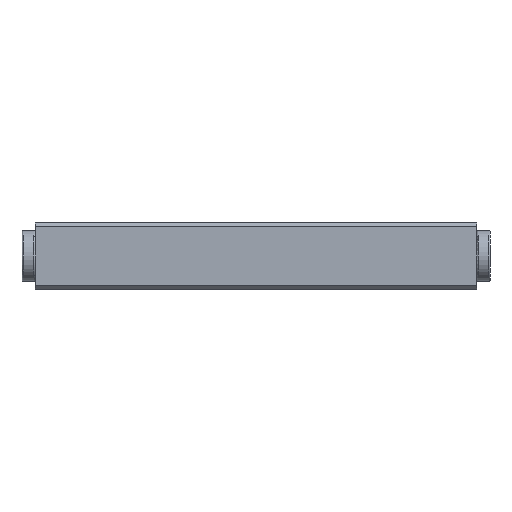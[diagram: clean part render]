
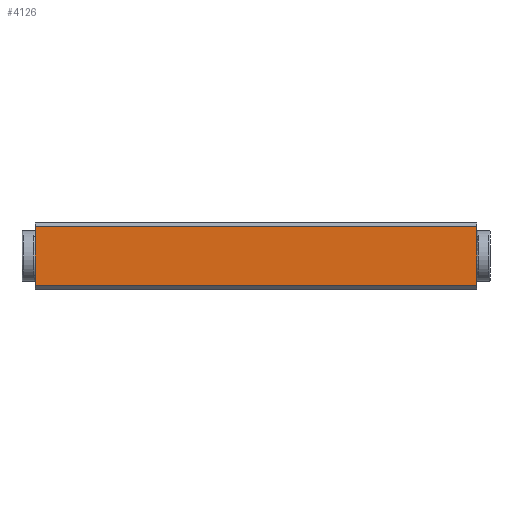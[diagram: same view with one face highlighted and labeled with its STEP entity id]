
A CAD part, front view. The second image highlights one B-rep face of the part: STEP entity #4126.
In plain terms, the highlighted planar face has unit normal (0, -1, 0).
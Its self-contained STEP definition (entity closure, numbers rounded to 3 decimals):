
#427=ORIENTED_EDGE('',*,*,#1697,.T.);
#428=ORIENTED_EDGE('',*,*,#1698,.F.);
#429=ORIENTED_EDGE('',*,*,#1699,.F.);
#430=ORIENTED_EDGE('',*,*,#1695,.T.);
#1695=EDGE_CURVE('',#2330,#2329,#2773,.T.);
#1697=EDGE_CURVE('',#2329,#2331,#2775,.T.);
#1698=EDGE_CURVE('',#2332,#2331,#2776,.T.);
#1699=EDGE_CURVE('',#2330,#2332,#2777,.T.);
#2329=VERTEX_POINT('',#7060);
#2330=VERTEX_POINT('',#7062);
#2331=VERTEX_POINT('',#7066);
#2332=VERTEX_POINT('',#7068);
#2773=LINE('',#7061,#3117);
#2775=LINE('',#7065,#3119);
#2776=LINE('',#7067,#3120);
#2777=LINE('',#7069,#3121);
#3117=VECTOR('',#5854,1000.);
#3119=VECTOR('',#5858,1000.);
#3120=VECTOR('',#5859,1000.);
#3121=VECTOR('',#5860,1000.);
#3458=EDGE_LOOP('',(#427,#428,#429,#430));
#3728=FACE_BOUND('',#3458,.T.);
#3996=PLANE('',#5410);
#4126=ADVANCED_FACE('',(#3728),#3996,.F.);
#5410=AXIS2_PLACEMENT_3D('',#7064,#5856,#5857);
#5854=DIRECTION('',(-1.,0.,0.));
#5856=DIRECTION('',(0.,1.,0.));
#5857=DIRECTION('',(0.,0.,1.));
#5858=DIRECTION('',(0.,0.,-1.));
#5859=DIRECTION('',(-1.,0.,0.));
#5860=DIRECTION('',(0.,0.,-1.));
#7060=CARTESIAN_POINT('',(3.,-15.,6.6));
#7061=CARTESIAN_POINT('',(103.,-15.,6.6));
#7062=CARTESIAN_POINT('',(103.,-15.,6.6));
#7064=CARTESIAN_POINT('',(103.,-15.,6.6));
#7065=CARTESIAN_POINT('',(3.,-15.,6.6));
#7066=CARTESIAN_POINT('',(3.,-15.,-6.6));
#7067=CARTESIAN_POINT('',(103.,-15.,-6.6));
#7068=CARTESIAN_POINT('',(103.,-15.,-6.6));
#7069=CARTESIAN_POINT('',(103.,-15.,6.6));
